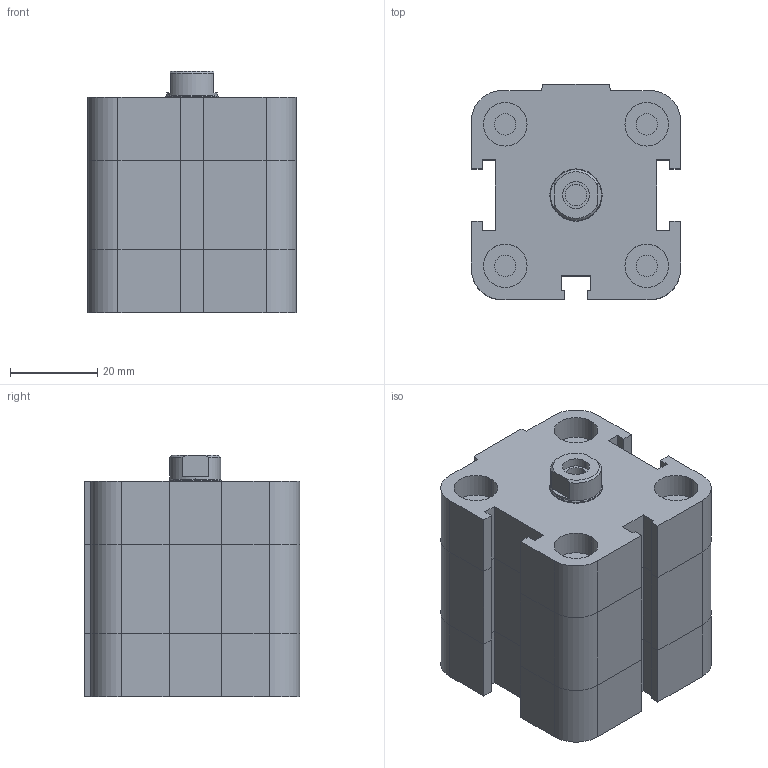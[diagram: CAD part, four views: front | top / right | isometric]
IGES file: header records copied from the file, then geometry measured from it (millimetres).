
Global section: file name: No Iges File Name specified; native system: Autodesk Inventor 2009; preprocessor: AutoDesk Inventor Iges Exporter R2009; author: rivolro1; date: 20081219.152157; units: millimetre
Bounding box: 48 x 49.5 x 55.5 mm (x, y, z)
Volume: 97816.5 mm3; surface area: 21640.5 mm2
Topology: 2 solids, 2 shells, 187 faces, 410 edges, 248 vertices
Faces by surface type: plane 112, bspline 39, revolution 16, cylinder 16, cone 4
